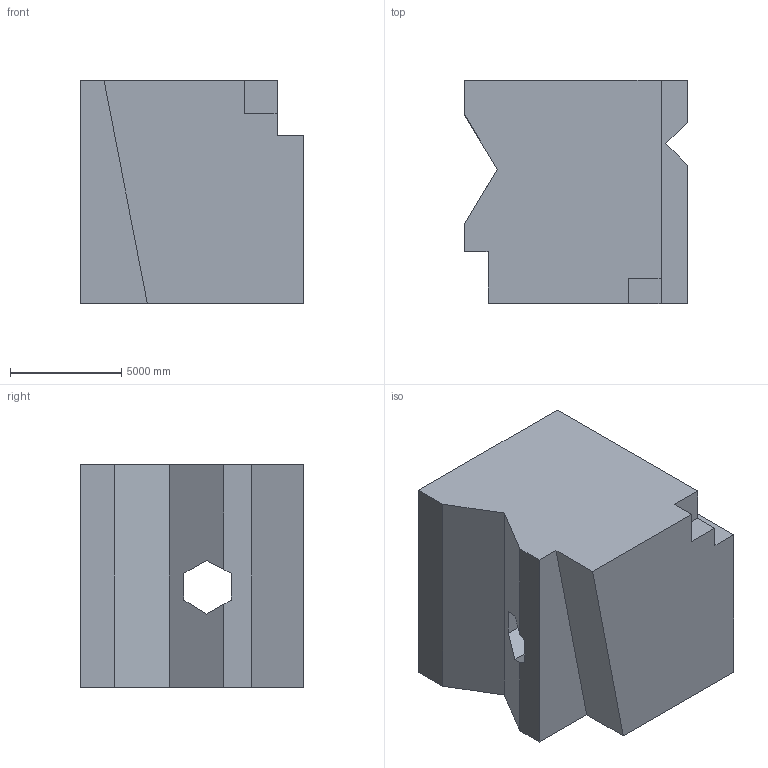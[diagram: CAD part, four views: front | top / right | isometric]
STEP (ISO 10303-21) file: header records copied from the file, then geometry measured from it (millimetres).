
FILE_DESCRIPTION (( 'STEP AP203' ), '1' );
FILE_NAME ('1545.STEP', '2022-08-18T15:42:20', ( 'user' ), ( '' ), 'SwSTEP 2.0', 'SolidWorks 2021', '' );
FILE_SCHEMA (( 'CONFIG_CONTROL_DESIGN' ));
Length unit declared in the file: centimetre
Products named in the file (1): 1545
Bounding box: 10000 x 10000 x 10000 mm (x, y, z)
Volume: 841965847718 mm3; surface area: 651485444.3 mm2
Topology: 1 solids, 1 shells, 25 faces, 72 edges, 48 vertices
Faces by surface type: plane 25
Entity records: 887 total; most frequent: CARTESIAN_POINT 146, ORIENTED_EDGE 144, DIRECTION 124, LINE 72, EDGE_CURVE 72, VECTOR 72, VERTEX_POINT 48, EDGE_LOOP 26
